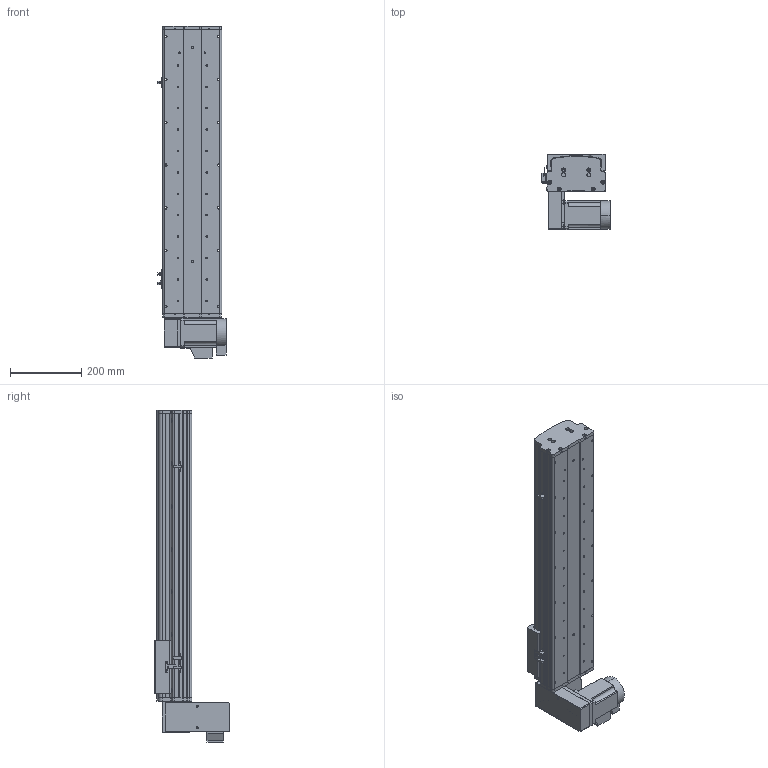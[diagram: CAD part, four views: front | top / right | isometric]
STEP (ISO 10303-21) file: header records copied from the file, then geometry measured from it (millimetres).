
FILE_DESCRIPTION (( 'STEP AP214' ), '1' );
FILE_NAME ('KSD165B-S550-MLD-CM.STEP', '2017-10-16T06:58:21', ( '微软用户' ), ( '微软中国' ), 'SwSTEP 2.0', 'SolidWorks 2014', '' );
FILE_SCHEMA (( 'AUTOMOTIVE_DESIGN' ));
Length unit declared in the file: millimetre
Products named in the file (17): KSD165模组-同步带-防撞垫2; KSD165模组同步带-防撞垫1; KSD165耀郪-ヶ傷啣1-肮祭湍; KSD165模组-后端板1-同步带; KSD165模组-同步带滑动座-最新版; KSD165B-S550-MLD-CM; 130宽模组马达安装板连板上下折丝杆同步带; 130宽模组保护罩上下左右折-同步带; HTPA26S5M250-A-H8 750W萇儂蚚; HTPA26S5M250-A-H8 400W萇儂蚚 ; 165宽马达安装板同步带左-改; KSD165模组-同步带防尘盖1-550行程-最新版; KSD165模组同步带底板-550行程-最新; 拸秶雄ん750W侜督萇儂; U倰嫖萇假蚾璃; U倰嫖萇EEㄜSX672; 覜茼え68遵圉猾敕
Assembly tree (20 placements, depth 2):
  KSD165B-S550-MLD-CM
    KSD165模组-同步带滑动座-最新版
    KSD165模组-后端板1-同步带
    KSD165耀郪-ヶ傷啣1-肮祭湍
    KSD165模组同步带-防撞垫1
    KSD165模组-同步带-防撞垫2
    覜茼え68遵圉猾敕
    U倰嫖萇EEㄜSX672  x3
    U倰嫖萇假蚾璃  x3
    拸秶雄ん750W侜督萇儂
    KSD165模组同步带底板-550行程-最新
    KSD165模组-同步带防尘盖1-550行程-最新版
    165宽马达安装板同步带左-改
    HTPA26S5M250-A-H8 400W萇儂蚚 
    HTPA26S5M250-A-H8 750W萇儂蚚
    130宽模组保护罩上下左右折-同步带
    130宽模组马达安装板连板上下折丝杆同步带
Bounding box: 191.2 x 210 x 931 mm (x, y, z)
Volume: 5886837.7 mm3; surface area: 1363074.9 mm2
Topology: 21 solids, 22 shells, 1907 faces, 5370 edges, 3504 vertices
Faces by surface type: cylinder 1213, plane 582, cone 112
Entity records: 61344 total; most frequent: CARTESIAN_POINT 12570, DIRECTION 10130, ORIENTED_EDGE 9400, EDGE_CURVE 4700, AXIS2_PLACEMENT_3D 3966, VERTEX_POINT 3096, CIRCLE 2256, LINE 2198
